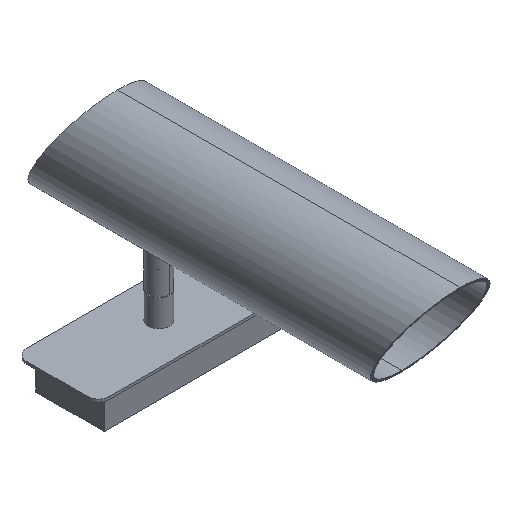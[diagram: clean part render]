
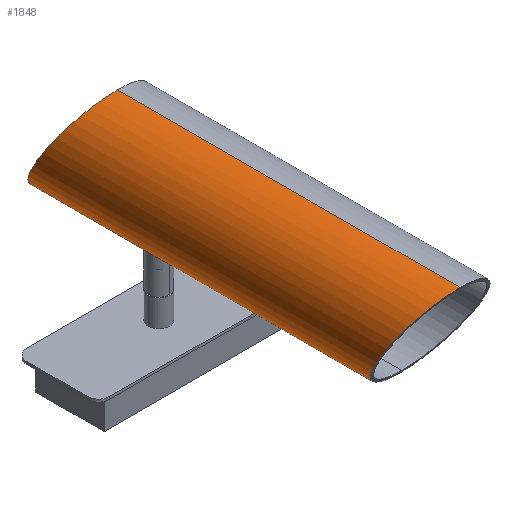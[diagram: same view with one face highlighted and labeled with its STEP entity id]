
A CAD part, isometric view. The second image highlights one B-rep face of the part: STEP entity #1848.
In plain terms, the highlighted cylindrical face has radius 28 mm (diameter 56 mm), a partial arc.
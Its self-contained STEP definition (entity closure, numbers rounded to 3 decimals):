
#198=FACE_OUTER_BOUND('',#311,.T.);
#311=EDGE_LOOP('',(#1273,#1274,#1275,#1276));
#437=ELLIPSE('',#1975,32.332,28.);
#438=ELLIPSE('',#1976,32.332,28.);
#451=LINE('',#2729,#633);
#452=LINE('',#2733,#634);
#633=VECTOR('',#2174,304.8);
#634=VECTOR('',#2177,304.8);
#817=VERTEX_POINT('',#2727);
#818=VERTEX_POINT('',#2728);
#819=VERTEX_POINT('',#2730);
#820=VERTEX_POINT('',#2732);
#995=EDGE_CURVE('',#817,#818,#451,.T.);
#996=EDGE_CURVE('',#819,#817,#437,.T.);
#997=EDGE_CURVE('',#820,#819,#452,.T.);
#998=EDGE_CURVE('',#818,#820,#438,.T.);
#1273=ORIENTED_EDGE('',*,*,#995,.F.);
#1274=ORIENTED_EDGE('',*,*,#996,.F.);
#1275=ORIENTED_EDGE('',*,*,#997,.F.);
#1276=ORIENTED_EDGE('',*,*,#998,.F.);
#1807=CYLINDRICAL_SURFACE('',#1974,28.);
#1848=ADVANCED_FACE('',(#198),#1807,.T.);
#1974=AXIS2_PLACEMENT_3D('',#2726,#2172,#2173);
#1975=AXIS2_PLACEMENT_3D('',#2731,#2175,#2176);
#1976=AXIS2_PLACEMENT_3D('',#2734,#2178,#2179);
#2172=DIRECTION('center_axis',(-1.,0.,0.));
#2173=DIRECTION('ref_axis',(0.,0.,
1.));
#2174=DIRECTION('',(1.,0.,0.));
#2175=DIRECTION('center_axis',(-0.866,0.,0.5));
#2176=DIRECTION('ref_axis',(0.5,0.,0.866));
#2177=DIRECTION('',(-1.,0.,0.));
#2178=DIRECTION('center_axis',(0.866,0.,-0.5));
#2179=DIRECTION('ref_axis',(0.5,0.,0.866));
#2726=CARTESIAN_POINT('Origin',(1411.604,0.,87.468));
#2727=CARTESIAN_POINT('',(-22.277,0.,115.468));
#2728=CARTESIAN_POINT('',(162.723,0.,115.468));
#2729=CARTESIAN_POINT('',(-22.277,0.,115.468));
#2730=CARTESIAN_POINT('',(-54.609,0.,59.468));
#2731=CARTESIAN_POINT('Origin',(-38.443,0.,
87.468));
#2732=CARTESIAN_POINT('',(130.391,0.,59.468));
#2733=CARTESIAN_POINT('',(130.391,0.,59.468));
#2734=CARTESIAN_POINT('Origin',(146.557,0.,87.468));
